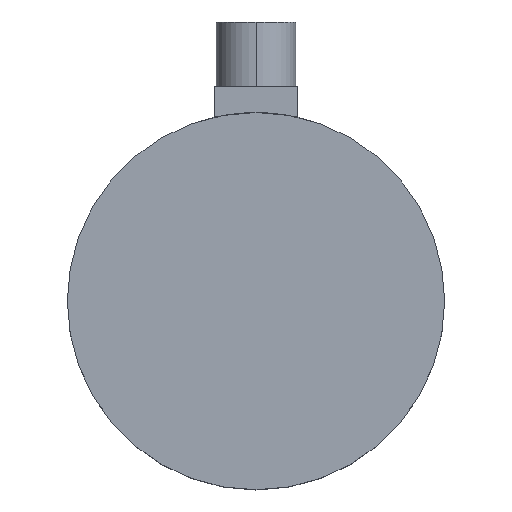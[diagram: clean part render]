
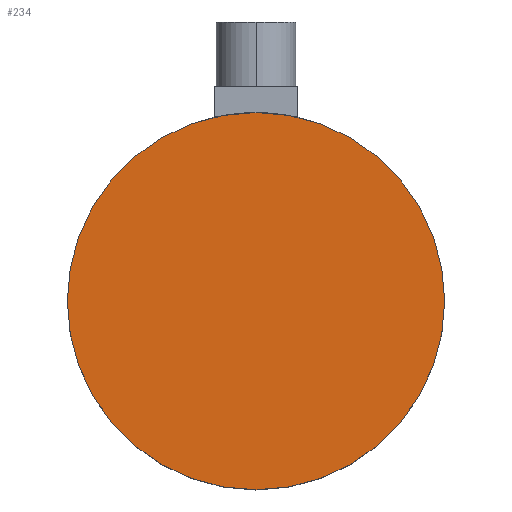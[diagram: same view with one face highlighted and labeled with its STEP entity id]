
A CAD part, top view. The second image highlights one B-rep face of the part: STEP entity #234.
In plain terms, the highlighted planar face has unit normal (0, 0, 1).
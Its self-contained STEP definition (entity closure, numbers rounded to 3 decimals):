
#41 = FACE_OUTER_BOUND ( 'NONE', #70, .T. ) ;
#56 = CARTESIAN_POINT ( 'NONE',  ( 0., 0., 34.5 ) ) ;
#70 = EDGE_LOOP ( 'NONE', ( #211, #171 ) ) ;
#83 = DIRECTION ( 'NONE',  ( 1., 0., 0. ) ) ;
#97 = CARTESIAN_POINT ( 'NONE',  ( 0., 0., 34.5 ) ) ;
#130 = DIRECTION ( 'NONE',  ( 1., 0., 0. ) ) ;
#142 = VERTEX_POINT ( 'NONE', #189 ) ;
#144 = PLANE ( 'NONE',  #257 ) ;
#171 = ORIENTED_EDGE ( 'NONE', *, *, #345, .T. ) ;
#180 = CIRCLE ( 'NONE', #236, 50. ) ;
#189 = CARTESIAN_POINT ( 'NONE',  ( -50., 0., 34.5 ) ) ;
#211 = ORIENTED_EDGE ( 'NONE', *, *, #304, .T. ) ;
#234 = ADVANCED_FACE ( 'NONE', ( #41 ), #144, .T. ) ;
#236 = AXIS2_PLACEMENT_3D ( 'NONE', #270, #328, #299 ) ;
#255 = AXIS2_PLACEMENT_3D ( 'NONE', #56, #398, #83 ) ;
#257 = AXIS2_PLACEMENT_3D ( 'NONE', #97, #381, #130 ) ;
#270 = CARTESIAN_POINT ( 'NONE',  ( 0., 0., 34.5 ) ) ;
#299 = DIRECTION ( 'NONE',  ( 1., 0., 0. ) ) ;
#304 = EDGE_CURVE ( 'NONE', #142, #380, #180, .T. ) ;
#318 = CARTESIAN_POINT ( 'NONE',  ( 50., 0., 34.5 ) ) ;
#324 = CIRCLE ( 'NONE', #255, 50. ) ;
#328 = DIRECTION ( 'NONE',  ( 0., 0., 1. ) ) ;
#345 = EDGE_CURVE ( 'NONE', #380, #142, #324, .T. ) ;
#380 = VERTEX_POINT ( 'NONE', #318 ) ;
#381 = DIRECTION ( 'NONE',  ( 0., 0., 1. ) ) ;
#398 = DIRECTION ( 'NONE',  ( 0., 0., 1. ) ) ;
